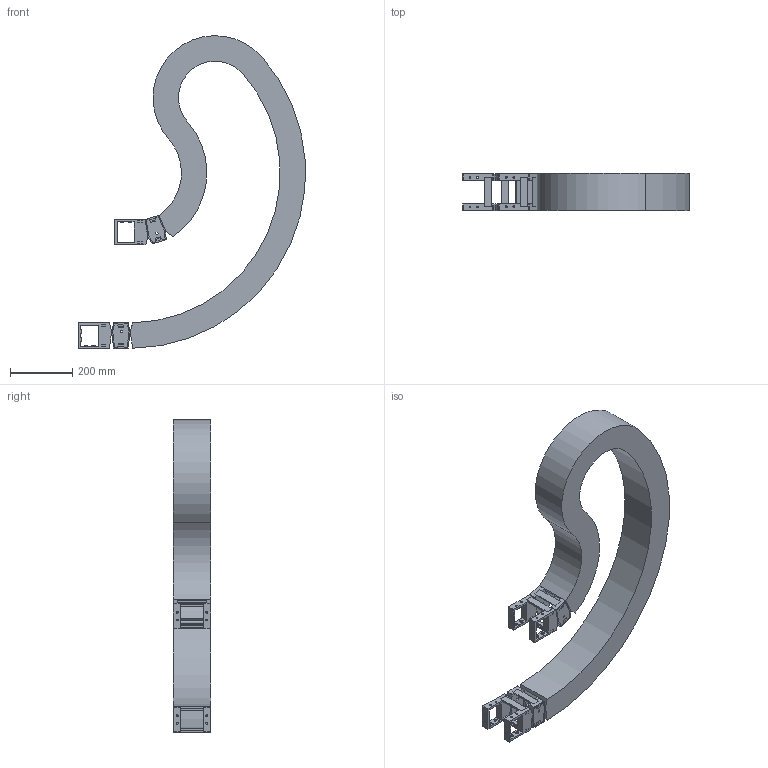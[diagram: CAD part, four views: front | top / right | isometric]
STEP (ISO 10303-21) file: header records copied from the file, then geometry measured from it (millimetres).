
FILE_DESCRIPTION( ( 'STEP AP214' ), '1' );
FILE_NAME( 'p:/temp/worker_39/temp/exporttempdir_4932_117_BR1aL/format_2/RV060CRA120124.5165120400485-00753025.05950.stp', '2021-07-27T05:40:02', ( 'License CC BY-ND 4.0' ), ( 'CADENAS' ), ' ', 'PARTsolutions', ' ' );
FILE_SCHEMA( ( 'AUTOMOTIVE_DESIGN { 1 0 10303 214 1 1 1 1 }' ) );
Length unit declared in the file: millimetre
Products named in the file (4): RV060CRA120124.5165120400485-00753025.05950; _RV060CRA120128165120400485-00751845.047-Chain; _RV060CR-SU-75-60; _RV060CR_FB-120
Assembly tree (5 placements, depth 2):
  RV060CRA120124.5165120400485-00753025.05950
    _RV060CRA120128165120400485-00751845.047-Chain
    _RV060CR-SU-75-60  x2
    _RV060CR_FB-120  x2
Bounding box: 729.03 x 120 x 1006.74 mm (x, y, z)
Volume: 11563389.3 mm3; surface area: 1594866.7 mm2
Topology: 5 solids, 5 shells, 508 faces, 1476 edges, 988 vertices
Faces by surface type: plane 400, cylinder 108
Full cylindrical faces by diameter (mm): 6 x24
Entity records: 10820 total; most frequent: CARTESIAN_POINT 1528, ORIENTED_EDGE 1500, DIRECTION 1410, EDGE_CURVE 750, LINE 630, VECTOR 630, VERTEX_POINT 508, AXIS2_PLACEMENT_3D 390
